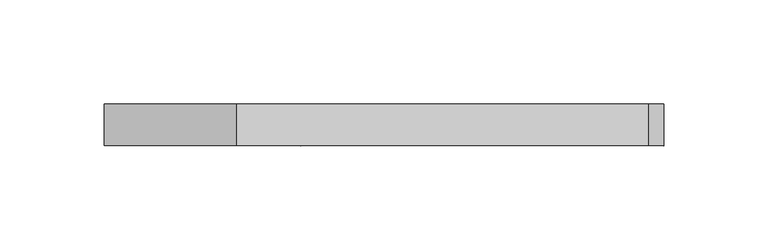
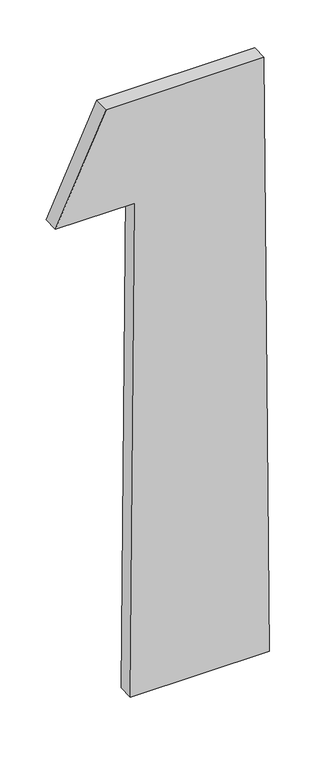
"""IFC4 building model written with IfcOpenShell, lengths in millimetres: plate geometry, 空系统嵌板 : 空."""

from ifc_helpers import new_model, si_unit, frame, origin, place, context, project, spatial, polyline, outline, extrude, source, transform, mapped, element, save


def plate_d213f6b1(model_context):
    return source(origin(), model_context, "Body", "SweptSolid", [
        extrude(outline(polyline([(0.0, -40.048815), (0.0, 134.3283042), (789.9223778, 127.1396259), (789.6112434, -70.6150088), (653.3562009, -134.3283042), (652.4800893, -34.3321421), (0.0, -40.048815)])), frame((0.0, -10.0, 0.0), z_axis=(0.0, 1.0, 0.0), x_axis=(0.0, 0.0, 1.0)), (0.0, 0.0, 1.0), 20.0),
    ])


if __name__ == "__main__":
    model = new_model("IFC4")
    model_context = context("Model", 3, world=origin())
    ifc_project = project(units=[si_unit("LENGTHUNIT", "METRE", prefix="MILLI")], contexts=[model_context])
    site = spatial("IfcSite", under=ifc_project)
    building = spatial("IfcBuilding", under=site)
    placement = place(None, origin())
    plate_shape = plate_d213f6b1(model_context)
    element("IfcPlate", 1, ObjectType="空系统嵌板 : 空", at=placement, inside=building, context=model_context, shape_type="MappedRepresentation", body=[
        mapped(plate_shape, transform((0.0, 0.0, 0.0), x_axis=(1.0, 0.0, 0.0), y_axis=(0.0, 1.0, 0.0), z_axis=(0.0, 0.0, 1.0))),
    ])
    save(model, "model.ifc")
